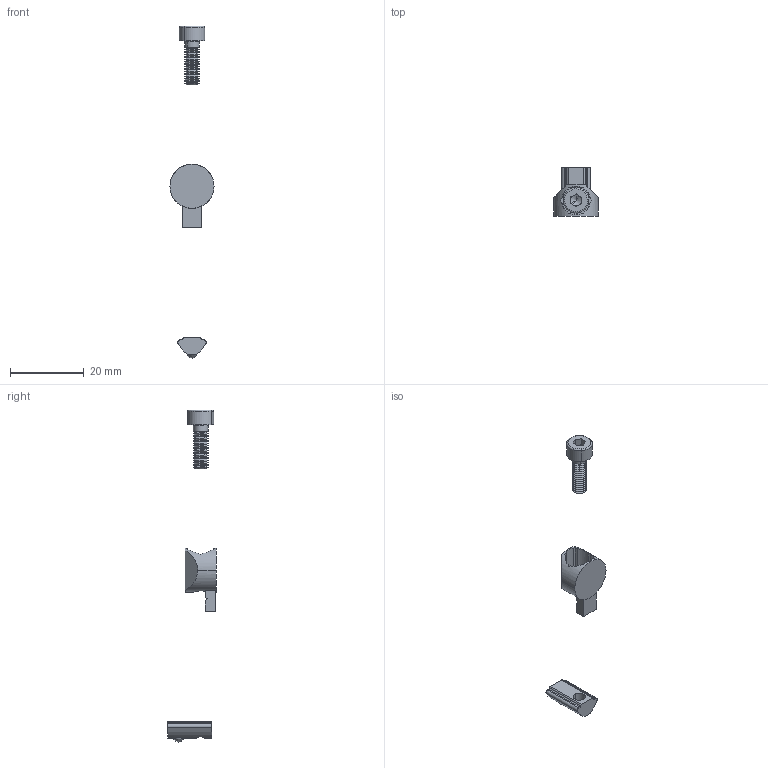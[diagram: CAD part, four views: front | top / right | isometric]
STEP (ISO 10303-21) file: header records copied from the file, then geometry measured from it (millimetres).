
FILE_DESCRIPTION (( 'STEP AP203' ), '1' );
FILE_NAME ('371005_Unispann-Satz 5.step', '2020-11-04T06:46:46', ( '' ), ( '' ), 'SwSTEP 2.0', 'SolidWorks 2017', '' );
FILE_SCHEMA (( 'CONFIG_CONTROL_DESIGN' ));
Length unit declared in the file: millimetre
Products named in the file (4): 371005_Unispann-Satz 5; 353020 Nutenstein 5 M4 einschwenkbar mit Kugel und Steg; DIN 912 M4 x 12 --- 12S_DIN 912 M4 x 12 --- 12S; 999268 Unispann-Satz 5
Assembly tree (3 placements, depth 2):
  371005_Unispann-Satz 5
    999268 Unispann-Satz 5
    353020 Nutenstein 5 M4 einschwenkbar mit Kugel und Steg
    DIN 912 M4 x 12 --- 12S_DIN 912 M4 x 12 --- 12S
Bounding box: 12 x 13.25 x 90.32 mm (x, y, z)
Volume: 1090.7 mm3; surface area: 1551.5 mm2
Topology: 3 solids, 4 shells, 191 faces, 502 edges, 319 vertices
Faces by surface type: cylinder 67, cone 64, plane 53, torus 4, bspline 3
Entity records: 6535 total; most frequent: CARTESIAN_POINT 1317, DIRECTION 1080, ORIENTED_EDGE 1000, EDGE_CURVE 500, AXIS2_PLACEMENT_3D 430, VERTEX_POINT 319, CIRCLE 236, VECTOR 220
